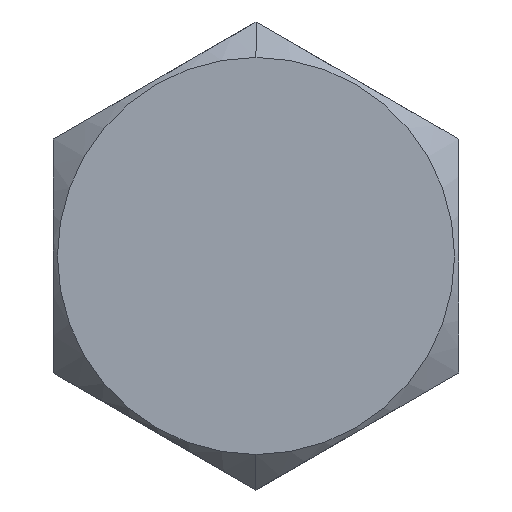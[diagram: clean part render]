
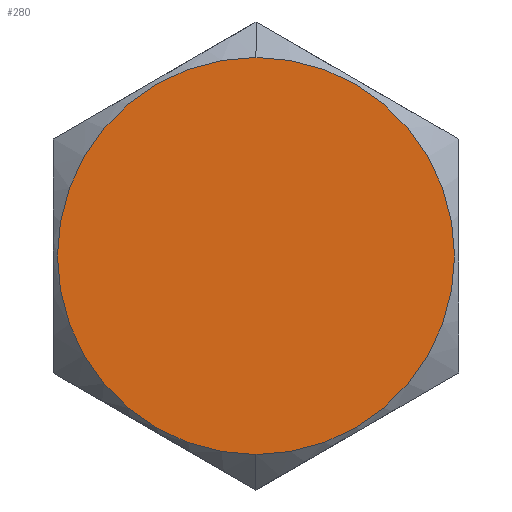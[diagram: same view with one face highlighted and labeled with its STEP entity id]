
A CAD part, left-side view. The second image highlights one B-rep face of the part: STEP entity #280.
In plain terms, the highlighted planar face has unit normal (-1, 0, 0).
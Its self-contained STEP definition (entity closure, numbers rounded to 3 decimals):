
#8 = VERTEX_POINT ( 'NONE', #108 ) ;
#28 = EDGE_CURVE ( 'NONE', #8, #100, #389, .T. ) ;
#46 = DIRECTION ( 'NONE',  ( 0., 0., -1. ) ) ;
#73 = DIRECTION ( 'NONE',  ( 0., 0., -1. ) ) ;
#100 = VERTEX_POINT ( 'NONE', #625 ) ;
#108 = CARTESIAN_POINT ( 'NONE',  ( 0., 0., 7.838 ) ) ;
#148 = FACE_OUTER_BOUND ( 'NONE', #347, .T. ) ;
#178 = CARTESIAN_POINT ( 'NONE',  ( 0., 0., 0. ) ) ;
#206 = PLANE ( 'NONE',  #611 ) ;
#249 = ORIENTED_EDGE ( 'NONE', *, *, #618, .F. ) ;
#264 = DIRECTION ( 'NONE',  ( 1., 0., 0. ) ) ;
#280 = ADVANCED_FACE ( 'NONE', ( #148 ), #206, .F. ) ;
#295 = CARTESIAN_POINT ( 'NONE',  ( 0., 0., 0. ) ) ;
#337 = CIRCLE ( 'NONE', #809, 7.838 ) ;
#347 = EDGE_LOOP ( 'NONE', ( #249, #456 ) ) ;
#389 = CIRCLE ( 'NONE', #550, 7.838 ) ;
#452 = CARTESIAN_POINT ( 'NONE',  ( 0., 0., 0. ) ) ;
#456 = ORIENTED_EDGE ( 'NONE', *, *, #28, .F. ) ;
#550 = AXIS2_PLACEMENT_3D ( 'NONE', #295, #734, #46 ) ;
#611 = AXIS2_PLACEMENT_3D ( 'NONE', #452, #264, #658 ) ;
#618 = EDGE_CURVE ( 'NONE', #100, #8, #337, .T. ) ;
#625 = CARTESIAN_POINT ( 'NONE',  ( 0., 0., -7.838 ) ) ;
#658 = DIRECTION ( 'NONE',  ( 0., 0., -1. ) ) ;
#734 = DIRECTION ( 'NONE',  ( 1., 0., 0. ) ) ;
#809 = AXIS2_PLACEMENT_3D ( 'NONE', #178, #812, #73 ) ;
#812 = DIRECTION ( 'NONE',  ( 1., 0., 0. ) ) ;
